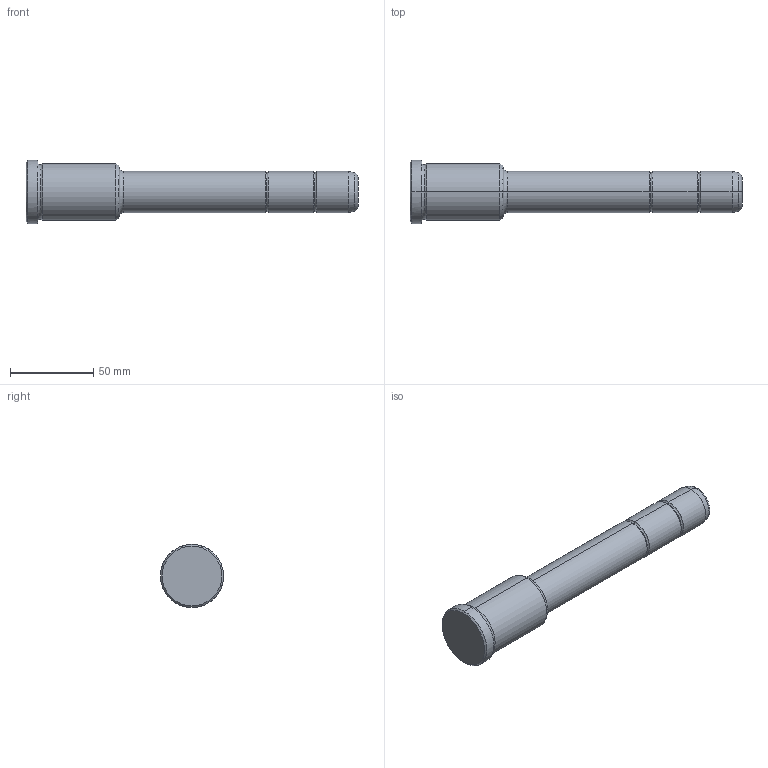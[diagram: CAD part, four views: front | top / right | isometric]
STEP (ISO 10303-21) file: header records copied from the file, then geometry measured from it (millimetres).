
FILE_DESCRIPTION(('CATIA V5 STEP Exchange'),'2;1');
FILE_NAME('C:\Users\Utente\Desktop\IO LAVORO\3D X SITO CF\X SITO\PLASTICA\351\351-25X56X200.stp','2021-09-07T10:15:34+00:00',('none'),('none'),'CATIA Version 5 Release 20 GA (IN-10)','CATIA V5 STEP AP203','none');
FILE_SCHEMA(('CONFIG_CONTROL_DESIGN'));
Length unit declared in the file: millimetre
Products named in the file (1): 351-25X56X200
Bounding box: 200 x 38 x 38 mm (x, y, z)
Volume: 122323.7 mm3; surface area: 19337.5 mm2
Topology: 1 solids, 1 shells, 36 faces, 102 edges, 70 vertices
Faces by surface type: torus 16, cylinder 10, cone 6, plane 4
Entity records: 1292 total; most frequent: CARTESIAN_POINT 321, ORIENTED_EDGE 204, DIRECTION 166, AXIS2_PLACEMENT_3D 115, EDGE_CURVE 102, CIRCLE 78, VERTEX_POINT 70, EDGE_LOOP 38
